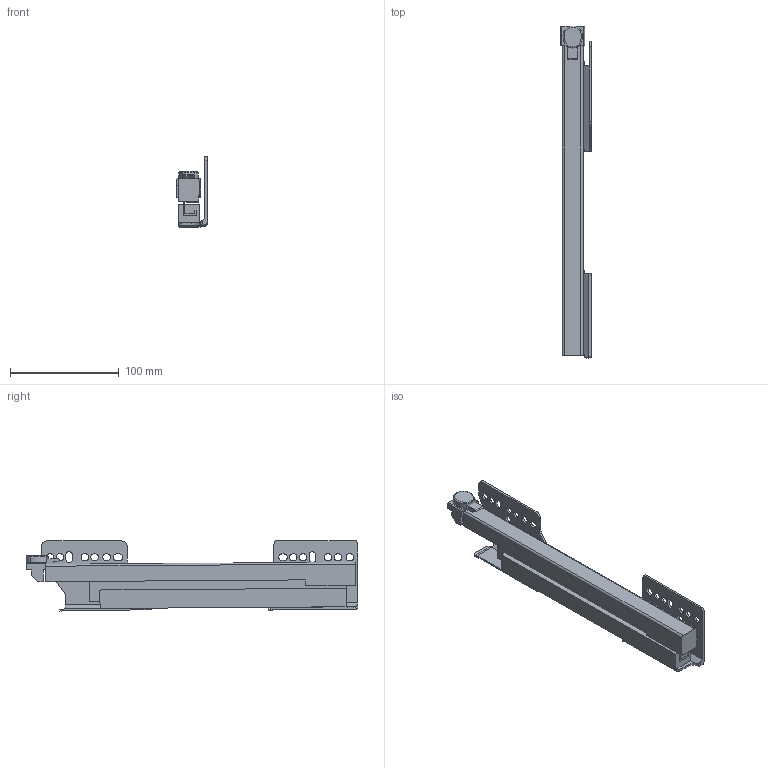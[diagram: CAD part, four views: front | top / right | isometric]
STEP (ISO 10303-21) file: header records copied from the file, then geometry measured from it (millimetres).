
FILE_DESCRIPTION (( 'STEP AP214' ), '1' );
FILE_NAME ('_IMOS_NOVA-Pro_KS_TL_EB29mm_RE_NL300.step', '2010-07-15T11:34:11', ( 'grass' ), ( '' ), 'SwSTEP 2.0', 'SolidWorks 2009', '' );
FILE_SCHEMA (( 'AUTOMOTIVE_DESIGN' ));
Length unit declared in the file: millimetre
Products named in the file (1): _IMOS_NOVA-Pro_KS_TL_EB29mm_RE_NL300
Bounding box: 27.95 x 305.61 x 64.46 mm (x, y, z)
Volume: 221807.5 mm3; surface area: 96887 mm2
Topology: 8 solids, 8 shells, 185 faces, 496 edges, 328 vertices
Faces by surface type: plane 116, cylinder 64, torus 5
Entity records: 5964 total; most frequent: CARTESIAN_POINT 1097, ORIENTED_EDGE 992, DIRECTION 972, EDGE_CURVE 496, VECTOR 350, LINE 350, VERTEX_POINT 328, AXIS2_PLACEMENT_3D 311
